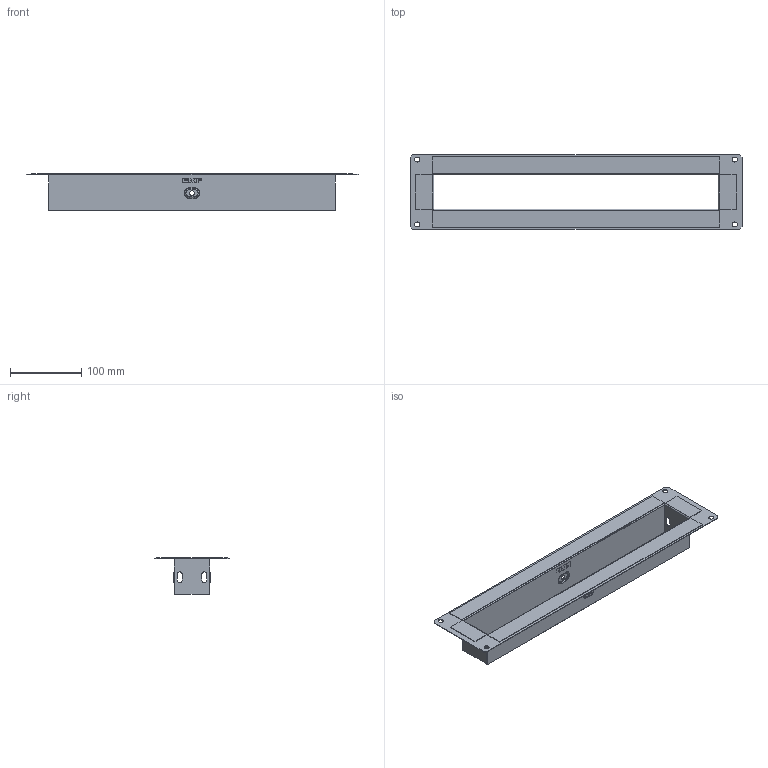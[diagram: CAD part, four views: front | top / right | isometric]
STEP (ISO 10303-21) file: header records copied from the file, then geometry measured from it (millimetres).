
FILE_DESCRIPTION (( 'STEP AP203' ), '1' );
FILE_NAME ('f50400_捘.STEP', '2020-01-23T12:30:50', ( '' ), ( '' ), 'SwSTEP 2.0', 'SolidWorks 2016', '' );
FILE_SCHEMA (( 'CONFIG_CONTROL_DESIGN' ));
Length unit declared in the file: millimetre
Products named in the file (9): f50400_捘; f50400_1; f50400_2; f50300_3
Assembly tree (5 placements, depth 2):
  f50400_捘
    f50400_1
    f50400_2  x2
    f50300_3  x2
  f50400_1
  f50400_2
  f50400_2
  f50300_3
Bounding box: 465 x 105 x 51.5 mm (x, y, z)
Volume: 75953.1 mm3; surface area: 193656.1 mm2
Topology: 5 solids, 5 shells, 306 faces, 792 edges, 512 vertices
Faces by surface type: plane 212, cylinder 60, bspline 18, torus 16
Entity records: 6262 total; most frequent: CARTESIAN_POINT 1358, ORIENTED_EDGE 852, DIRECTION 816, EDGE_CURVE 426, VECTOR 328, LINE 328, VERTEX_POINT 276, AXIS2_PLACEMENT_3D 244
